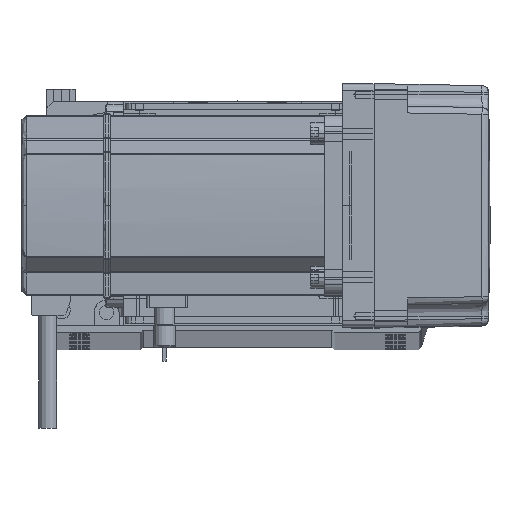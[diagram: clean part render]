
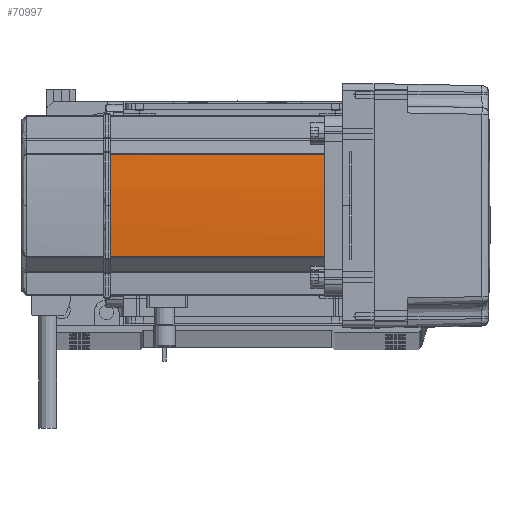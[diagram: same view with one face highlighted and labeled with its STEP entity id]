
A CAD part, top view. The second image highlights one B-rep face of the part: STEP entity #70997.
In plain terms, the highlighted cylindrical face has radius 270 mm (diameter 540 mm), a partial arc.
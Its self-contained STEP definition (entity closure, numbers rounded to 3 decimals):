
#1087 = EDGE_CURVE ( 'NONE', #22809, #10857, #46045, .T. ) ;
#5057 = AXIS2_PLACEMENT_3D ( 'NONE', #52086, #41297, #67972 ) ;
#8959 = CIRCLE ( 'NONE', #67688, 270. ) ;
#10624 = ORIENTED_EDGE ( 'NONE', *, *, #63983, .T. ) ;
#10857 = VERTEX_POINT ( 'NONE', #13534 ) ;
#10875 = DIRECTION ( 'NONE',  ( 1., 0., 0. ) ) ;
#12468 = ORIENTED_EDGE ( 'NONE', *, *, #47449, .T. ) ;
#13008 = DIRECTION ( 'NONE',  ( 0., 0., 1. ) ) ;
#13534 = CARTESIAN_POINT ( 'NONE',  ( -39.042, 22.724, 39. ) ) ;
#18373 = VERTEX_POINT ( 'NONE', #43386 ) ;
#19108 = DIRECTION ( 'NONE',  ( 0., 0., -1. ) ) ;
#20155 = EDGE_CURVE ( 'NONE', #61987, #18373, #8959, .T. ) ;
#20636 = CYLINDRICAL_SURFACE ( 'NONE', #22801, 270. ) ;
#21868 = VECTOR ( 'NONE', #25574, 1000. ) ;
#22801 = AXIS2_PLACEMENT_3D ( 'NONE', #57500, #13008, #51747 ) ;
#22809 = VERTEX_POINT ( 'NONE', #51032 ) ;
#25574 = DIRECTION ( 'NONE',  ( 0., 0., 1. ) ) ;
#31149 = ORIENTED_EDGE ( 'NONE', *, *, #35172, .T. ) ;
#35172 = EDGE_CURVE ( 'NONE', #22809, #61987, #49404, .T. ) ;
#40696 = CARTESIAN_POINT ( 'NONE',  ( -39.042, 22.724, 0. ) ) ;
#41297 = DIRECTION ( 'NONE',  ( 0., 0., -1. ) ) ;
#42045 = DIRECTION ( 'NONE',  ( 1., 0., 0. ) ) ;
#43386 = CARTESIAN_POINT ( 'NONE',  ( -40., 0., 134. ) ) ;
#45957 = DIRECTION ( 'NONE',  ( 0., 0., -1. ) ) ;
#46045 = CIRCLE ( 'NONE', #58553, 270. ) ;
#47449 = EDGE_CURVE ( 'NONE', #18373, #52752, #62658, .T. ) ;
#47459 = ORIENTED_EDGE ( 'NONE', *, *, #20155, .T. ) ;
#47845 = EDGE_LOOP ( 'NONE', ( #47459, #12468, #10624, #57964, #31149 ) ) ;
#49404 = LINE ( 'NONE', #63536, #21868 ) ;
#50226 = CARTESIAN_POINT ( 'NONE',  ( 230., 0., 39. ) ) ;
#50881 = CARTESIAN_POINT ( 'NONE',  ( -39.042, 22.724, 134. ) ) ;
#51032 = CARTESIAN_POINT ( 'NONE',  ( -39.042, -22.724, 39. ) ) ;
#51747 = DIRECTION ( 'NONE',  ( 1., 0., 0. ) ) ;
#52014 = VECTOR ( 'NONE', #45957, 1000. ) ;
#52086 = CARTESIAN_POINT ( 'NONE',  ( 230., 0., 134. ) ) ;
#52752 = VERTEX_POINT ( 'NONE', #50881 ) ;
#57195 = LINE ( 'NONE', #40696, #52014 ) ;
#57500 = CARTESIAN_POINT ( 'NONE',  ( 230., 0., 0. ) ) ;
#57964 = ORIENTED_EDGE ( 'NONE', *, *, #1087, .F. ) ;
#58551 = FACE_OUTER_BOUND ( 'NONE', #47845, .T. ) ;
#58553 = AXIS2_PLACEMENT_3D ( 'NONE', #50226, #19108, #42045 ) ;
#59489 = CARTESIAN_POINT ( 'NONE',  ( -39.042, -22.724, 134. ) ) ;
#61987 = VERTEX_POINT ( 'NONE', #59489 ) ;
#62658 = CIRCLE ( 'NONE', #5057, 270. ) ;
#63536 = CARTESIAN_POINT ( 'NONE',  ( -39.042, -22.724, 0. ) ) ;
#63983 = EDGE_CURVE ( 'NONE', #52752, #10857, #57195, .T. ) ;
#66197 = DIRECTION ( 'NONE',  ( 0., 0., -1. ) ) ;
#67688 = AXIS2_PLACEMENT_3D ( 'NONE', #71307, #66197, #10875 ) ;
#67972 = DIRECTION ( 'NONE',  ( 1., 0., 0. ) ) ;
#70997 = ADVANCED_FACE ( 'NONE', ( #58551 ), #20636, .T. ) ;
#71307 = CARTESIAN_POINT ( 'NONE',  ( 230., 0., 134. ) ) ;
